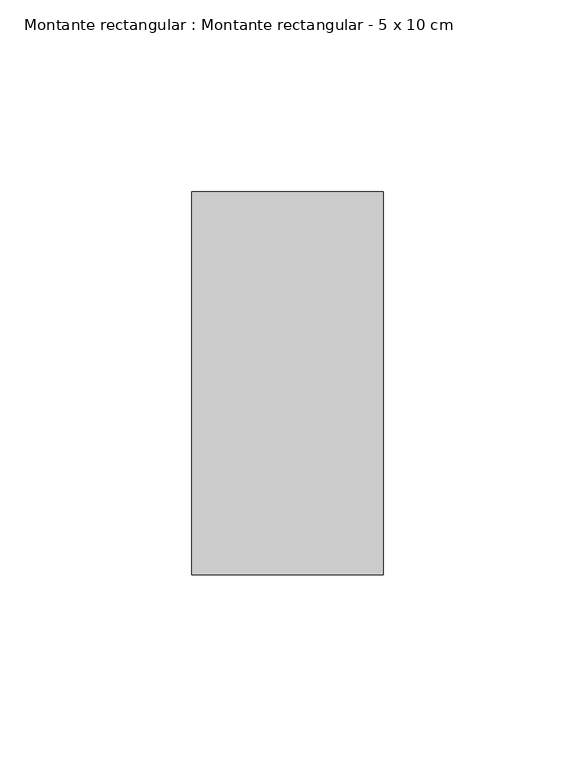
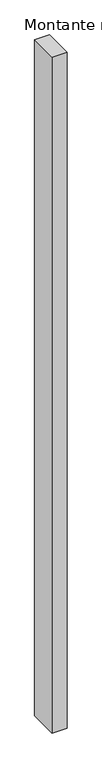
"""IFC4 building model written with IfcOpenShell, lengths in millimetres: member geometry, Montante rectangular : Montante rectangular - 5 x 10 cm."""

from ifc_helpers import new_model, si_unit, frame, origin, place, context, project, spatial, polyline, outline, extrude, source, transform, mapped, element, save


def montante_rectangular_montante_rectangular_5_x_10_cm_f5fbba73(model_context):
    return source(origin(), model_context, "Body", "SweptSolid", [
        extrude(outline(polyline([(0.0, 50.0), (0.0, -50.0), (-50.0, -50.0), (-50.0, 50.0), (0.0, 50.0)])), frame((0.0, 0.0, -2383.4047241), z_axis=(0.0, 0.0, 1.0), x_axis=(1.0, 0.0, 0.0)), (0.0, 0.0, 1.0), 2383.4047241),
    ])


if __name__ == "__main__":
    model = new_model("IFC4")
    model_context = context("Model", 3, world=origin())
    ifc_project = project(units=[si_unit("LENGTHUNIT", "METRE", prefix="MILLI")], contexts=[model_context])
    site = spatial("IfcSite", under=ifc_project)
    building = spatial("IfcBuilding", under=site)
    placement = place(None, origin())
    montante_rectangular_montante_rectangular_5_x_10_cm_shape = montante_rectangular_montante_rectangular_5_x_10_cm_f5fbba73(model_context)
    element("IfcMember", 1, ObjectType="Montante rectangular : Montante rectangular - 5 x 10 cm", at=placement, inside=building, context=model_context, shape_type="MappedRepresentation", body=[
        mapped(montante_rectangular_montante_rectangular_5_x_10_cm_shape, transform((0.0, 0.0, 0.0), x_axis=(1.0, 0.0, 0.0), y_axis=(0.0, 1.0, 0.0), z_axis=(0.0, 0.0, 1.0))),
    ])
    save(model, "model.ifc")
